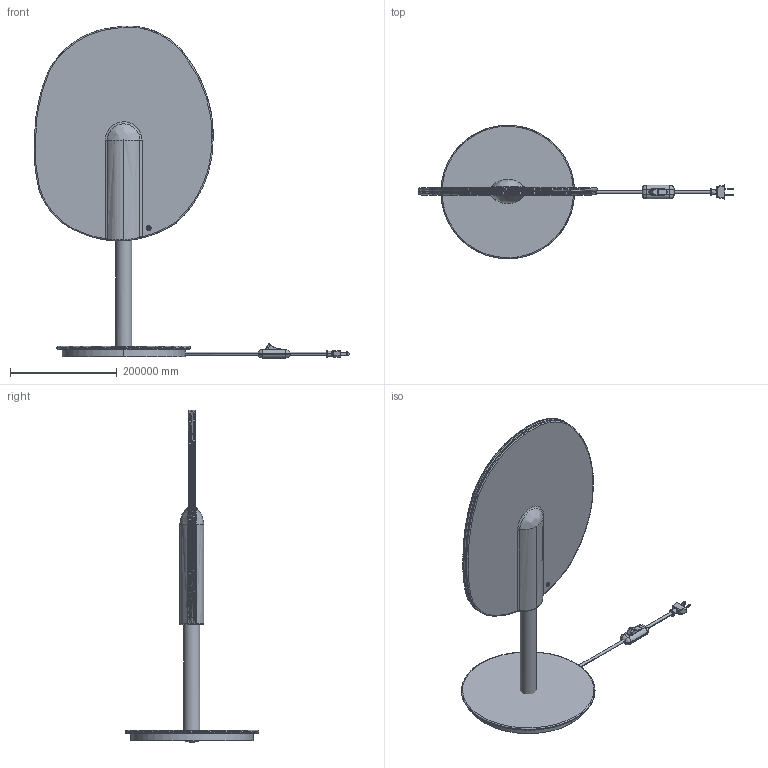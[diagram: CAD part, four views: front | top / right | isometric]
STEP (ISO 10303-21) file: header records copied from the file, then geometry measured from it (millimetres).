
FILE_DESCRIPTION(/* description */ (''),/* implementation_level */ '2;1');
FILE_NAME(/* name */ 'Lollipop Table lamp BF UL',/* time_stamp */ '2019-01-31T12:53:01+01:00',/* author */ (''),/* organization */ (''),/* preprocessor_version */ 'ST-DEVELOPER v15',/* originating_system */ '',/* authorisation */ '');
FILE_SCHEMA (('AUTOMOTIVE_DESIGN'));
Length unit declared in the file: metre
Products named in the file (1): Document
Bounding box: 590687 x 250000 x 621482.66 mm (x, y, z)
Volume: 2338744289492527 mm3; surface area: 742687209675.6 mm2
Topology: 9 solids, 9 shells, 531 faces, 1394 edges, 882 vertices
Faces by surface type: plane 309, bspline 222
Entity records: 21300 total; most frequent: CARTESIAN_POINT 12574, ORIENTED_EDGE 2764, EDGE_CURVE 1382, B_SPLINE_CURVE_WITH_KNOTS 1055, VERTEX_POINT 882, EDGE_LOOP 550, ADVANCED_FACE 531, FACE_OUTER_BOUND 531
